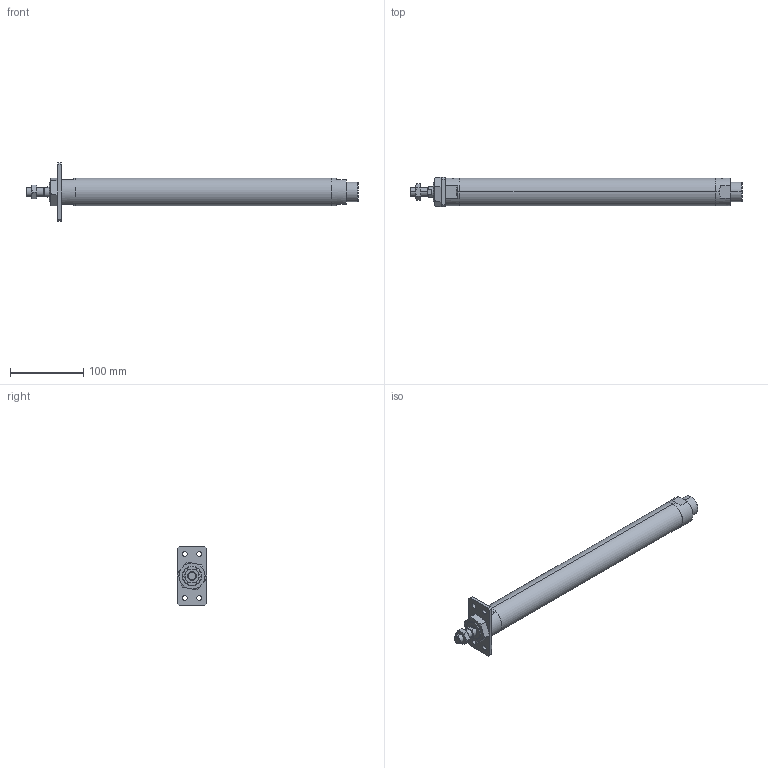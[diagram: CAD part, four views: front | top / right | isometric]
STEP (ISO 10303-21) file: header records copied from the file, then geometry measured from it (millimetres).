
FILE_DESCRIPTION (( 'STEP AP203' ), '1' );
FILE_NAME ('J#2-32-300-A.STEP', '2016-03-08T07:51:12', ( '' ), ( '' ), 'SwSTEP 2.0', 'SolidWorks 2014', '' );
FILE_SCHEMA (( 'CONFIG_CONTROL_DESIGN' ));
Length unit declared in the file: millimetre
Products named in the file (5): J#2-32-A; J#2-32-300; J#2-32-300-A
Assembly tree (4 placements, depth 2):
  J#2-32-300-A
    J#2-32-300
    (unnamed)
    (unnamed)
    J#2-32-A
Bounding box: 453 x 40 x 80 mm (x, y, z)
Volume: 469123.7 mm3; surface area: 64218.6 mm2
Topology: 4 solids, 4 shells, 114 faces, 264 edges, 161 vertices
Faces by surface type: plane 43, cylinder 32, torus 24, cone 15
Entity records: 4214 total; most frequent: CARTESIAN_POINT 1149, DIRECTION 537, ORIENTED_EDGE 520, EDGE_CURVE 260, AXIS2_PLACEMENT_3D 219, VERTEX_POINT 161, EDGE_LOOP 135, FACE_OUTER_BOUND 114
